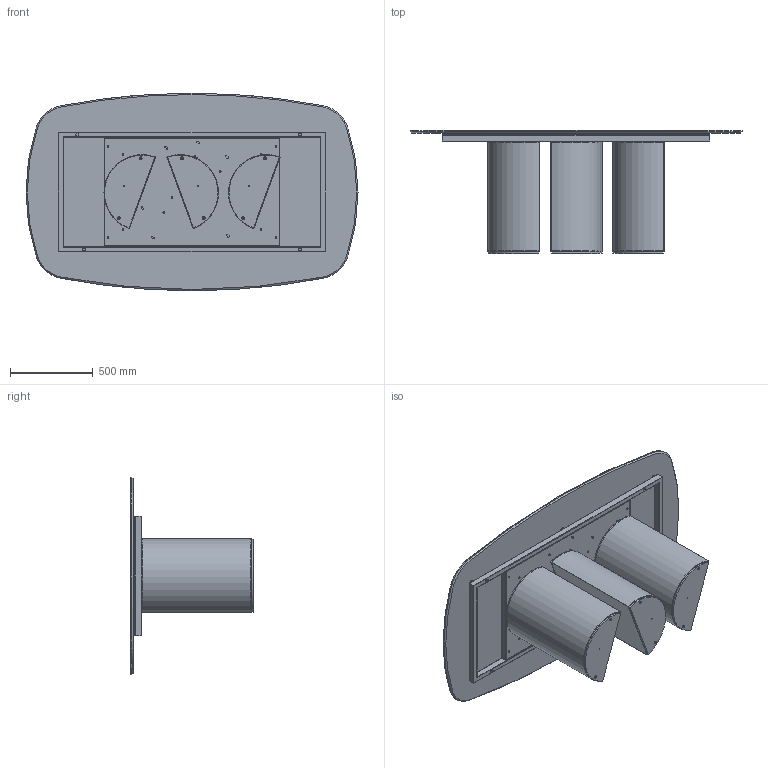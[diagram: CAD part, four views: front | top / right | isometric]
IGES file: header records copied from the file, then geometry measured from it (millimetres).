
Start section: SolidWorks IGES file using analytic representation for surfaces
Global section: file name: Y:\eforma\TECNICO\SOLIDWORKS\E-FORMA\1-TAVOLI\PLAI\02 parts\PL40C.IGS; native system: SolidWorks 2022; preprocessor: SolidWorks 2022; author: eforma.tech; date: 240807.155350; units: millimetre
Bounding box: 2000 x 740 x 1190 mm (x, y, z)
Volume: 46988960.6 mm3; surface area: 17309036.4 mm2
Topology: 49 solids, 49 shells, 1137 faces, 2547 edges, 1490 vertices
Faces by surface type: revolution 668, plane 469
